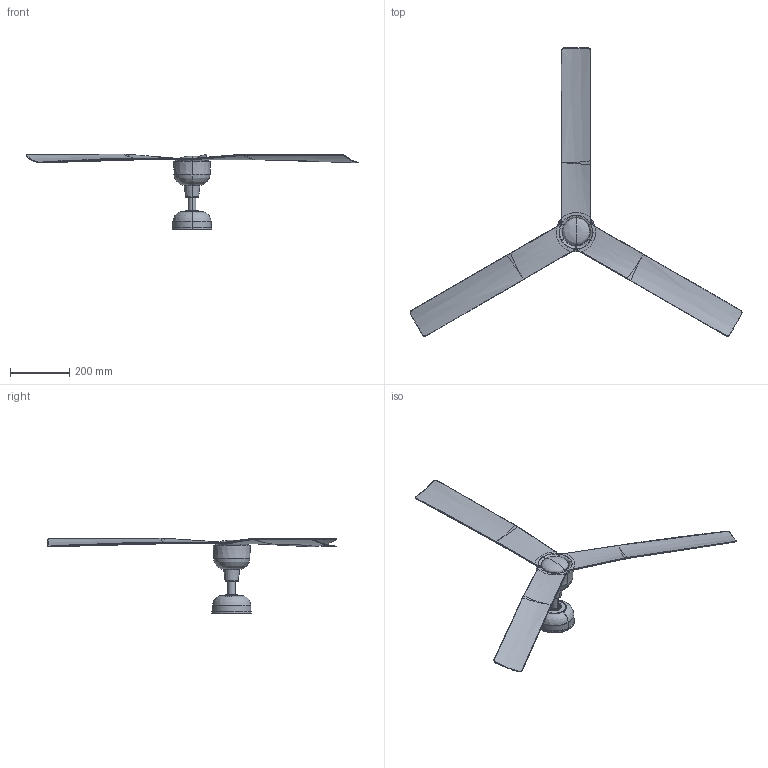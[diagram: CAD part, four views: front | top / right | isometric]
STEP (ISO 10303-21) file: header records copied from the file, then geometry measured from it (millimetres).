
FILE_DESCRIPTION(/* description */ (''),/* implementation_level */ '2;1');
FILE_NAME(/* name */ '34275_3d.step',/* time_stamp */ '2024-04-18T09:15:40+02:00',/* author */ ('RenataManzini'),/* organization */ (''),/* preprocessor_version */ 'ST-DEVELOPER v20',/* originating_system */ 'AutoCAD Mechanical',/* authorisation */ '');
FILE_SCHEMA (('AUTOMOTIVE_DESIGN { 1 0 10303 214 3 1 1 }'));
Length unit declared in the file: millimetre
Products named in the file (3): Product; pieza_34274 - fan-486328-Export; pieza_34274 - Marine_dwg_BA49YP-2-486271-Export
Assembly tree (4 placements, depth 3):
  Product
    pieza_34274 - fan-486328-Export
      pieza_34274 - Marine_dwg_BA49YP-2-486271-Export  x3
Bounding box: 1125.12 x 977.22 x 257.08 mm (x, y, z)
Volume: 348679.1 mm3; surface area: 617546.2 mm2
Topology: 5 solids, 32 shells, 573 faces, 3933 edges, 3345 vertices
Faces by surface type: plane 278, bspline 155, cylinder 112, torus 22, cone 6
Entity records: 22188 total; most frequent: CARTESIAN_POINT 10638, ORIENTED_EDGE 2339, DIRECTION 1845, EDGE_CURVE 1622, VERTEX_POINT 1314, LINE 867, VECTOR 867, B_SPLINE_CURVE_WITH_KNOTS 530
